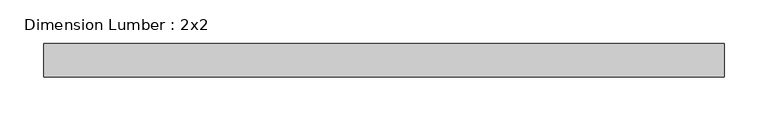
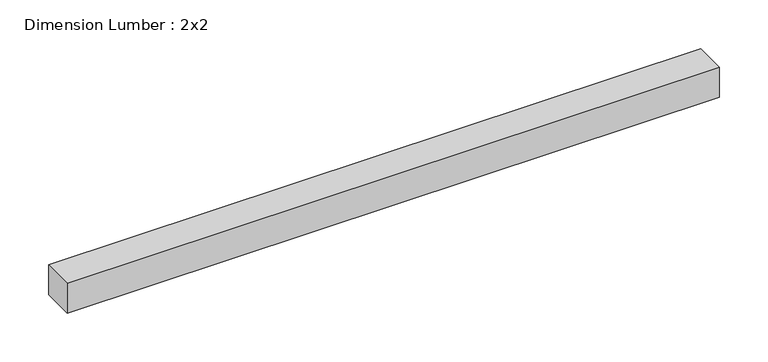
"""IFC4 building model written with IfcOpenShell, lengths in millimetres: beam geometry, Dimension Lumber : 2x2."""

from ifc_helpers import new_model, si_unit, frame, origin, place, context, project, spatial, polyline, outline, extrude, source, transform, mapped, element, save


def dimension_lumber_2x2_7f273d93(model_context):
    return source(origin(), model_context, "Body", "SweptSolid", [
        extrude(outline(polyline([(387.35, -19.05), (-387.35, -19.05), (-387.35, 19.05), (387.35, 19.05), (387.35, -19.05)])), frame((0.0, 0.0, -19.05), z_axis=(0.0, 0.0, 1.0), x_axis=(1.0, 0.0, 0.0)), (0.0, 0.0, 1.0), 38.1),
    ])


if __name__ == "__main__":
    model = new_model("IFC4")
    model_context = context("Model", 3, world=origin())
    ifc_project = project(units=[si_unit("LENGTHUNIT", "METRE", prefix="MILLI")], contexts=[model_context])
    site = spatial("IfcSite", under=ifc_project)
    building = spatial("IfcBuilding", under=site)
    placement = place(None, origin())
    dimension_lumber_2x2_shape = dimension_lumber_2x2_7f273d93(model_context)
    element("IfcBeam", 1, ObjectType="Dimension Lumber : 2x2", at=placement, inside=building, context=model_context, shape_type="MappedRepresentation", body=[
        mapped(dimension_lumber_2x2_shape, transform((0.0, 0.0, 0.0), x_axis=(1.0, 0.0, 0.0), y_axis=(0.0, 1.0, 0.0), z_axis=(0.0, 0.0, 1.0))),
    ])
    save(model, "model.ifc")
